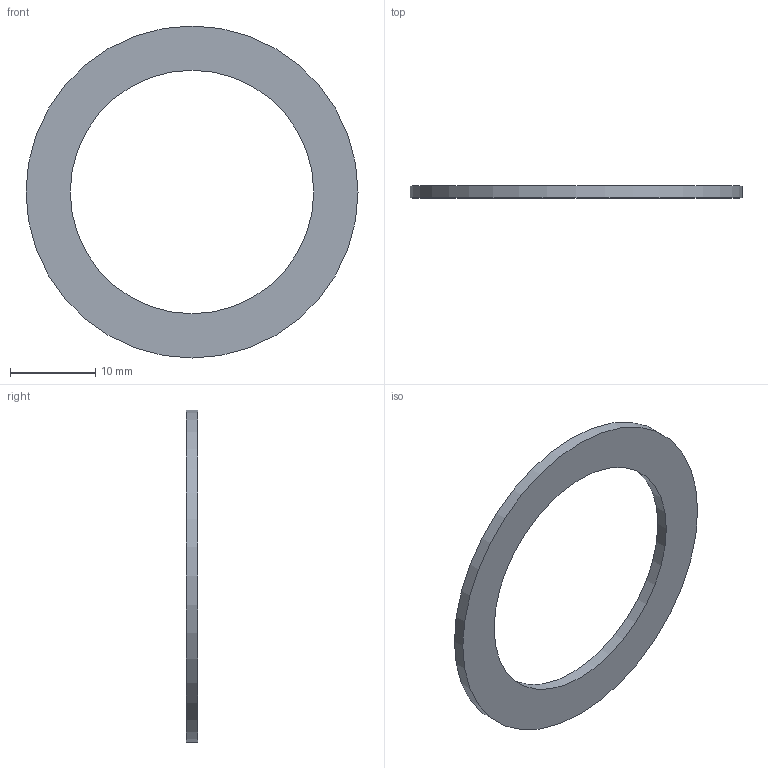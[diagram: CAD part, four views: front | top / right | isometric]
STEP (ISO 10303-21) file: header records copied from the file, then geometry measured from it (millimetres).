
FILE_DESCRIPTION(('FreeCAD Model'),'2;1');
FILE_NAME('Open CASCADE Shape Model','2026-11-20T08:25:38',('FreeCAD'),( 'FreeCAD'),'Open CASCADE STEP processor 7.8','FreeCAD','Unknown');
FILE_SCHEMA(('AUTOMOTIVE_DESIGN { 1 0 10303 214 1 1 1 1 }'));
Length unit declared in the file: millimetre
Products named in the file (1): Open CASCADE STEP translator 7.8 62
Bounding box: 39 x 1.4 x 39 mm (x, y, z)
Volume: 773 mm3; surface area: 1401.7 mm2
Topology: 1 solids, 1 shells, 4 faces, 6 edges, 4 vertices
Faces by surface type: cylinder 2, plane 2
Full cylindrical faces by diameter (mm): 28.6 x1, 39 x1
Entity records: 108 total; most frequent: DIRECTION 20, CARTESIAN_POINT 15, ORIENTED_EDGE 12, AXIS2_PLACEMENT_3D 9, FACE_BOUND 6, EDGE_LOOP 6, EDGE_CURVE 6, ADVANCED_FACE 4
